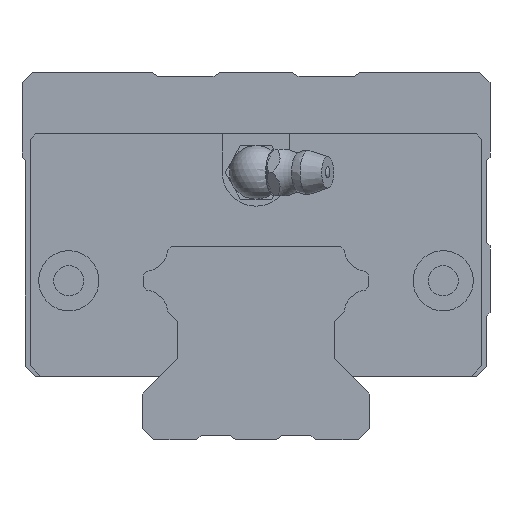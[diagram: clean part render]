
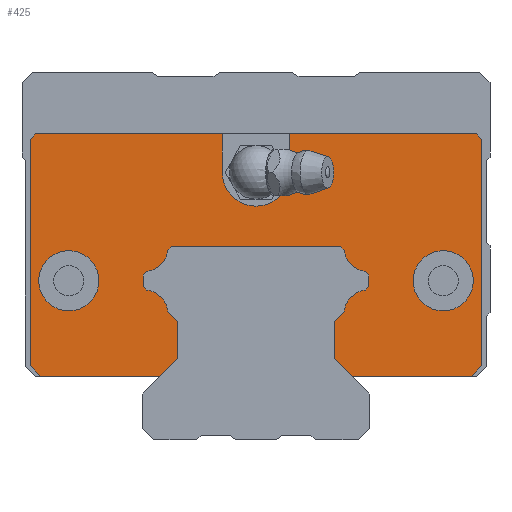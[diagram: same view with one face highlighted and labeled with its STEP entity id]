
A CAD part, front view. The second image highlights one B-rep face of the part: STEP entity #425.
In plain terms, the highlighted planar face has unit normal (0, -1, 0).
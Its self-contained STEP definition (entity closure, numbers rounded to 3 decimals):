
#189=FACE_BOUND('',#935,.T.);
#190=FACE_BOUND('',#936,.T.);
#269=CIRCLE('',#3537,3.5);
#271=CIRCLE('',#3543,3.5);
#273=CIRCLE('',#3549,3.5);
#275=CIRCLE('',#3555,3.5);
#278=CIRCLE('',#3579,4.5);
#279=CIRCLE('',#3580,4.5);
#280=CIRCLE('',#3581,5.05);
#425=ADVANCED_FACE('',(#189,#190,#745),#594,.F.);
#594=PLANE('',#3582);
#745=FACE_OUTER_BOUND('',#937,.T.);
#935=EDGE_LOOP('',(#2277));
#936=EDGE_LOOP('',(#2278));
#937=EDGE_LOOP('',(#2279,#2280,#2281,#2282,#2283,#2284,#2285,#2286,#2287,
#2288,#2289,#2290,#2291,#2292,#2293,#2294,#2295,#2296,#2297,#2298,#2299,
#2300,#2301,#2302,#2303,#2304,#2305,#2306,#2307,#2308,#2309,#2310));
#1180=LINE('',#5016,#1512);
#1186=LINE('',#5028,#1518);
#1189=LINE('',#5034,#1521);
#1192=LINE('',#5040,#1524);
#1196=LINE('',#5052,#1528);
#1199=LINE('',#5058,#1531);
#1202=LINE('',#5064,#1534);
#1206=LINE('',#5076,#1538);
#1209=LINE('',#5082,#1541);
#1212=LINE('',#5088,#1544);
#1216=LINE('',#5100,#1548);
#1219=LINE('',#5106,#1551);
#1222=LINE('',#5112,#1554);
#1226=LINE('',#5124,#1558);
#1229=LINE('',#5130,#1561);
#1232=LINE('',#5136,#1564);
#1236=LINE('',#5144,#1568);
#1292=LINE('',#5259,#1624);
#1295=LINE('',#5264,#1627);
#1298=LINE('',#5274,#1630);
#1299=LINE('',#5278,#1631);
#1300=LINE('',#5279,#1632);
#1301=LINE('',#5281,#1633);
#1302=LINE('',#5283,#1634);
#1303=LINE('',#5284,#1635);
#1304=LINE('',#5286,#1636);
#1305=LINE('',#5288,#1637);
#1512=VECTOR('',#4086,1.);
#1518=VECTOR('',#4094,1.);
#1521=VECTOR('',#4099,1.);
#1524=VECTOR('',#4104,1.);
#1528=VECTOR('',#4116,1.);
#1531=VECTOR('',#4121,1.);
#1534=VECTOR('',#4126,1.);
#1538=VECTOR('',#4138,1.);
#1541=VECTOR('',#4143,1.);
#1544=VECTOR('',#4148,1.);
#1548=VECTOR('',#4160,1.);
#1551=VECTOR('',#4165,1.);
#1554=VECTOR('',#4170,1.);
#1558=VECTOR('',#4182,1.);
#1561=VECTOR('',#4187,1.);
#1564=VECTOR('',#4192,1.);
#1568=VECTOR('',#4198,1.);
#1624=VECTOR('',#4290,1.);
#1627=VECTOR('',#4293,1.);
#1630=VECTOR('',#4302,1.);
#1631=VECTOR('',#4305,1.);
#1632=VECTOR('',#4306,1.);
#1633=VECTOR('',#4307,1.);
#1634=VECTOR('',#4308,1.);
#1635=VECTOR('',#4309,1.);
#1636=VECTOR('',#4310,1.);
#1637=VECTOR('',#4311,1.);
#2277=ORIENTED_EDGE('',*,*,#3256,.F.);
#2278=ORIENTED_EDGE('',*,*,#3257,.F.);
#2279=ORIENTED_EDGE('',*,*,#3258,.F.);
#2280=ORIENTED_EDGE('',*,*,#3259,.F.);
#2281=ORIENTED_EDGE('',*,*,#3260,.T.);
#2282=ORIENTED_EDGE('',*,*,#3253,.F.);
#2283=ORIENTED_EDGE('',*,*,#3261,.F.);
#2284=ORIENTED_EDGE('',*,*,#3262,.F.);
#2285=ORIENTED_EDGE('',*,*,#3263,.T.);
#2286=ORIENTED_EDGE('',*,*,#3192,.T.);
#2287=ORIENTED_EDGE('',*,*,#3188,.T.);
#2288=ORIENTED_EDGE('',*,*,#3185,.F.);
#2289=ORIENTED_EDGE('',*,*,#3182,.F.);
#2290=ORIENTED_EDGE('',*,*,#3179,.T.);
#2291=ORIENTED_EDGE('',*,*,#3176,.F.);
#2292=ORIENTED_EDGE('',*,*,#3173,.F.);
#2293=ORIENTED_EDGE('',*,*,#3170,.T.);
#2294=ORIENTED_EDGE('',*,*,#3167,.T.);
#2295=ORIENTED_EDGE('',*,*,#3164,.T.);
#2296=ORIENTED_EDGE('',*,*,#3161,.T.);
#2297=ORIENTED_EDGE('',*,*,#3158,.F.);
#2298=ORIENTED_EDGE('',*,*,#3155,.T.);
#2299=ORIENTED_EDGE('',*,*,#3152,.F.);
#2300=ORIENTED_EDGE('',*,*,#3149,.T.);
#2301=ORIENTED_EDGE('',*,*,#3146,.T.);
#2302=ORIENTED_EDGE('',*,*,#3143,.T.);
#2303=ORIENTED_EDGE('',*,*,#3140,.T.);
#2304=ORIENTED_EDGE('',*,*,#3137,.T.);
#2305=ORIENTED_EDGE('',*,*,#3134,.F.);
#2306=ORIENTED_EDGE('',*,*,#3128,.F.);
#2307=ORIENTED_EDGE('',*,*,#3264,.T.);
#2308=ORIENTED_EDGE('',*,*,#3265,.F.);
#2309=ORIENTED_EDGE('',*,*,#3266,.F.);
#2310=ORIENTED_EDGE('',*,*,#3250,.F.);
#2755=VERTEX_POINT('',#5015);
#2756=VERTEX_POINT('',#5017);
#2759=VERTEX_POINT('',#5025);
#2761=VERTEX_POINT('',#5031);
#2763=VERTEX_POINT('',#5037);
#2765=VERTEX_POINT('',#5043);
#2767=VERTEX_POINT('',#5049);
#2769=VERTEX_POINT('',#5055);
#2771=VERTEX_POINT('',#5061);
#2773=VERTEX_POINT('',#5067);
#2775=VERTEX_POINT('',#5073);
#2777=VERTEX_POINT('',#5079);
#2779=VERTEX_POINT('',#5085);
#2781=VERTEX_POINT('',#5091);
#2783=VERTEX_POINT('',#5097);
#2785=VERTEX_POINT('',#5103);
#2787=VERTEX_POINT('',#5109);
#2789=VERTEX_POINT('',#5115);
#2791=VERTEX_POINT('',#5121);
#2793=VERTEX_POINT('',#5127);
#2795=VERTEX_POINT('',#5133);
#2800=VERTEX_POINT('',#5145);
#2840=VERTEX_POINT('',#5258);
#2841=VERTEX_POINT('',#5260);
#2842=VERTEX_POINT('',#5263);
#2843=VERTEX_POINT('',#5265);
#2845=VERTEX_POINT('',#5271);
#2846=VERTEX_POINT('',#5273);
#2847=VERTEX_POINT('',#5275);
#2848=VERTEX_POINT('',#5277);
#2849=VERTEX_POINT('',#5280);
#2850=VERTEX_POINT('',#5282);
#2851=VERTEX_POINT('',#5285);
#2852=VERTEX_POINT('',#5287);
#3128=EDGE_CURVE('',#2755,#2756,#1180,.T.);
#3134=EDGE_CURVE('',#2756,#2759,#1186,.T.);
#3137=EDGE_CURVE('',#2761,#2759,#1189,.T.);
#3140=EDGE_CURVE('',#2763,#2761,#1192,.T.);
#3143=EDGE_CURVE('',#2765,#2763,#269,.T.);
#3146=EDGE_CURVE('',#2767,#2765,#1196,.T.);
#3149=EDGE_CURVE('',#2769,#2767,#1199,.T.);
#3152=EDGE_CURVE('',#2769,#2771,#1202,.T.);
#3155=EDGE_CURVE('',#2773,#2771,#271,.T.);
#3158=EDGE_CURVE('',#2773,#2775,#1206,.T.);
#3161=EDGE_CURVE('',#2777,#2775,#1209,.T.);
#3164=EDGE_CURVE('',#2779,#2777,#1212,.T.);
#3167=EDGE_CURVE('',#2781,#2779,#273,.T.);
#3170=EDGE_CURVE('',#2783,#2781,#1216,.T.);
#3173=EDGE_CURVE('',#2783,#2785,#1219,.T.);
#3176=EDGE_CURVE('',#2785,#2787,#1222,.T.);
#3179=EDGE_CURVE('',#2789,#2787,#275,.T.);
#3182=EDGE_CURVE('',#2789,#2791,#1226,.T.);
#3185=EDGE_CURVE('',#2791,#2793,#1229,.T.);
#3188=EDGE_CURVE('',#2795,#2793,#1232,.T.);
#3192=EDGE_CURVE('',#2800,#2795,#1236,.T.);
#3250=EDGE_CURVE('',#2840,#2841,#1292,.T.);
#3253=EDGE_CURVE('',#2842,#2843,#1295,.T.);
#3256=EDGE_CURVE('',#2845,#2845,#278,.T.);
#3257=EDGE_CURVE('',#2846,#2846,#279,.T.);
#3258=EDGE_CURVE('',#2847,#2840,#1298,.T.);
#3259=EDGE_CURVE('',#2848,#2847,#280,.T.);
#3260=EDGE_CURVE('',#2848,#2843,#1299,.T.);
#3261=EDGE_CURVE('',#2849,#2842,#1300,.T.);
#3262=EDGE_CURVE('',#2850,#2849,#1301,.T.);
#3263=EDGE_CURVE('',#2850,#2800,#1302,.T.);
#3264=EDGE_CURVE('',#2755,#2851,#1303,.T.);
#3265=EDGE_CURVE('',#2852,#2851,#1304,.T.);
#3266=EDGE_CURVE('',#2841,#2852,#1305,.T.);
#3537=AXIS2_PLACEMENT_3D('',#5046,#4110,#4111);
#3543=AXIS2_PLACEMENT_3D('',#5070,#4132,#4133);
#3549=AXIS2_PLACEMENT_3D('',#5094,#4154,#4155);
#3555=AXIS2_PLACEMENT_3D('',#5118,#4176,#4177);
#3579=AXIS2_PLACEMENT_3D('',#5270,#4298,#4299);
#3580=AXIS2_PLACEMENT_3D('',#5272,#4300,#4301);
#3581=AXIS2_PLACEMENT_3D('',#5276,#4303,#4304);
#3582=AXIS2_PLACEMENT_3D('',#5289,#4312,#4313);
#4086=DIRECTION('',(-1.,0.,0.));
#4094=DIRECTION('',(-0.707,0.,0.707));
#4099=DIRECTION('',(0.,0.,-1.));
#4104=DIRECTION('',(-0.707,0.,-0.707));
#4110=DIRECTION('',(0.,-1.,0.));
#4111=DIRECTION('',(1.,0.,0.));
#4116=DIRECTION('',(-0.707,0.,-0.707));
#4121=DIRECTION('',(0.,0.,-1.));
#4126=DIRECTION('',(-0.707,0.,0.707));
#4132=DIRECTION('',(0.,-1.,0.));
#4133=DIRECTION('',(1.,0.,0.));
#4138=DIRECTION('',(-0.707,0.,0.707));
#4143=DIRECTION('',(1.,0.,0.));
#4148=DIRECTION('',(0.707,0.,0.707));
#4154=DIRECTION('',(0.,-1.,0.));
#4155=DIRECTION('',(1.,0.,0.));
#4160=DIRECTION('',(0.707,0.,0.707));
#4165=DIRECTION('',(0.,0.,-1.));
#4170=DIRECTION('',(0.707,0.,-0.707));
#4176=DIRECTION('',(0.,-1.,0.));
#4177=DIRECTION('',(1.,0.,0.));
#4182=DIRECTION('',(0.707,0.,-0.707));
#4187=DIRECTION('',(0.,0.,-1.));
#4192=DIRECTION('',(0.707,0.,0.707));
#4198=DIRECTION('',(1.,0.,0.));
#4290=DIRECTION('',(1.,0.,0.));
#4293=DIRECTION('',(1.,0.,0.));
#4298=DIRECTION('',(0.,-1.,0.));
#4299=DIRECTION('',(0.,0.,-1.));
#4300=DIRECTION('',(0.,-1.,0.));
#4301=DIRECTION('',(0.,0.,-1.));
#4302=DIRECTION('',(0.,0.,1.));
#4303=DIRECTION('',(0.,-1.,0.));
#4304=DIRECTION('',(1.,0.,0.));
#4305=DIRECTION('',(0.,0.,1.));
#4306=DIRECTION('',(0.707,0.,0.707));
#4307=DIRECTION('',(0.,0.,1.));
#4308=DIRECTION('',(0.707,0.,-0.707));
#4309=DIRECTION('',(0.707,0.,0.707));
#4310=DIRECTION('',(0.,0.,-1.));
#4311=DIRECTION('',(0.707,0.,-0.707));
#4312=DIRECTION('',(0.,1.,0.));
#4313=DIRECTION('',(0.,0.,1.));
#5015=CARTESIAN_POINT('',(32.217,-99.1,-40.5));
#5016=CARTESIAN_POINT('',(32.217,-99.1,-40.5));
#5017=CARTESIAN_POINT('',(14.359,-99.1,-40.5));
#5025=CARTESIAN_POINT('',(11.7,-99.1,-37.841));
#5028=CARTESIAN_POINT('',(14.359,-99.1,-40.5));
#5031=CARTESIAN_POINT('',(11.7,-99.1,-32.259));
#5034=CARTESIAN_POINT('',(11.7,-99.1,-32.259));
#5037=CARTESIAN_POINT('',(13.204,-99.1,-30.754));
#5040=CARTESIAN_POINT('',(13.204,-99.1,-30.754));
#5043=CARTESIAN_POINT('',(16.354,-99.1,-27.604));
#5046=CARTESIAN_POINT('',(16.688,-99.1,-31.088));
#5049=CARTESIAN_POINT('',(16.9,-99.1,-27.059));
#5052=CARTESIAN_POINT('',(16.9,-99.1,-27.059));
#5055=CARTESIAN_POINT('',(16.9,-99.1,-25.341));
#5058=CARTESIAN_POINT('',(16.9,-99.1,-25.341));
#5061=CARTESIAN_POINT('',(16.354,-99.1,-24.796));
#5064=CARTESIAN_POINT('',(16.9,-99.1,-25.341));
#5067=CARTESIAN_POINT('',(13.204,-99.1,-21.646));
#5070=CARTESIAN_POINT('',(16.688,-99.1,-21.312));
#5073=CARTESIAN_POINT('',(12.659,-99.1,-21.1));
#5076=CARTESIAN_POINT('',(13.204,-99.1,-21.646));
#5079=CARTESIAN_POINT('',(-12.659,-99.1,-21.1));
#5082=CARTESIAN_POINT('',(-12.659,-99.1,-21.1));
#5085=CARTESIAN_POINT('',(-13.204,-99.1,-21.646));
#5088=CARTESIAN_POINT('',(-13.204,-99.1,-21.646));
#5091=CARTESIAN_POINT('',(-16.354,-99.1,-24.796));
#5094=CARTESIAN_POINT('',(-16.688,-99.1,-21.312));
#5097=CARTESIAN_POINT('',(-16.9,-99.1,-25.341));
#5100=CARTESIAN_POINT('',(-16.9,-99.1,-25.341));
#5103=CARTESIAN_POINT('',(-16.9,-99.1,-27.059));
#5106=CARTESIAN_POINT('',(-16.9,-99.1,-25.341));
#5109=CARTESIAN_POINT('',(-16.354,-99.1,-27.604));
#5112=CARTESIAN_POINT('',(-16.9,-99.1,-27.059));
#5115=CARTESIAN_POINT('',(-13.204,-99.1,-30.754));
#5118=CARTESIAN_POINT('',(-16.688,-99.1,-31.088));
#5121=CARTESIAN_POINT('',(-11.7,-99.1,-32.259));
#5124=CARTESIAN_POINT('',(-13.204,-99.1,-30.754));
#5127=CARTESIAN_POINT('',(-11.7,-99.1,-37.841));
#5130=CARTESIAN_POINT('',(-11.7,-99.1,-32.259));
#5133=CARTESIAN_POINT('',(-14.359,-99.1,-40.5));
#5136=CARTESIAN_POINT('',(-14.359,-99.1,-40.5));
#5144=CARTESIAN_POINT('',(-32.218,-99.1,-40.5));
#5145=CARTESIAN_POINT('',(-32.218,-99.1,-40.5));
#5258=CARTESIAN_POINT('',(5.05,-99.1,-4.2));
#5259=CARTESIAN_POINT('',(-32.917,-99.1,-4.2));
#5260=CARTESIAN_POINT('',(32.917,-99.1,-4.2));
#5263=CARTESIAN_POINT('',(-32.917,-99.1,-4.2));
#5264=CARTESIAN_POINT('',(-32.917,-99.1,-4.2));
#5265=CARTESIAN_POINT('',(-5.05,-99.1,-4.2));
#5270=CARTESIAN_POINT('',(-28.,-99.1,-26.2));
#5271=CARTESIAN_POINT('',(-28.,-99.1,-30.7));
#5272=CARTESIAN_POINT('',(28.,-99.1,-26.2));
#5273=CARTESIAN_POINT('',(28.,-99.1,-30.7));
#5274=CARTESIAN_POINT('',(5.05,-99.1,-10.));
#5275=CARTESIAN_POINT('',(5.05,-99.1,-10.));
#5276=CARTESIAN_POINT('',(0.,-99.1,-10.));
#5277=CARTESIAN_POINT('',(-5.05,-99.1,-10.));
#5278=CARTESIAN_POINT('',(-5.05,-99.1,-10.));
#5279=CARTESIAN_POINT('',(-33.8,-99.1,-5.083));
#5280=CARTESIAN_POINT('',(-33.8,-99.1,-5.083));
#5281=CARTESIAN_POINT('',(-33.8,-99.1,-38.918));
#5282=CARTESIAN_POINT('',(-33.8,-99.1,-38.918));
#5283=CARTESIAN_POINT('',(-33.8,-99.1,-38.918));
#5284=CARTESIAN_POINT('',(32.217,-99.1,-40.5));
#5285=CARTESIAN_POINT('',(33.8,-99.1,-38.917));
#5286=CARTESIAN_POINT('',(33.8,-99.1,-5.083));
#5287=CARTESIAN_POINT('',(33.8,-99.1,-5.083));
#5288=CARTESIAN_POINT('',(32.917,-99.1,-4.2));
#5289=CARTESIAN_POINT('',(16.688,-99.1,-31.088));
